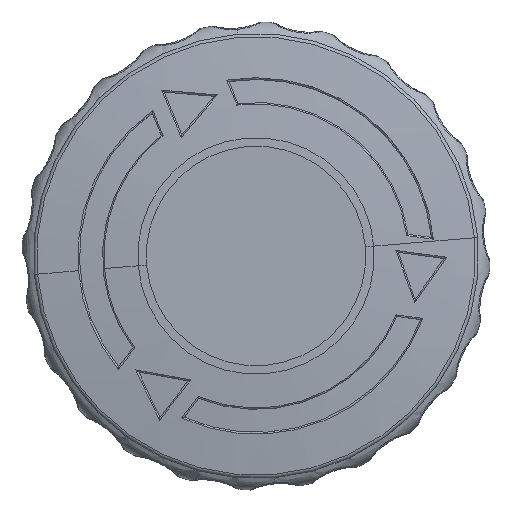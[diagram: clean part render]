
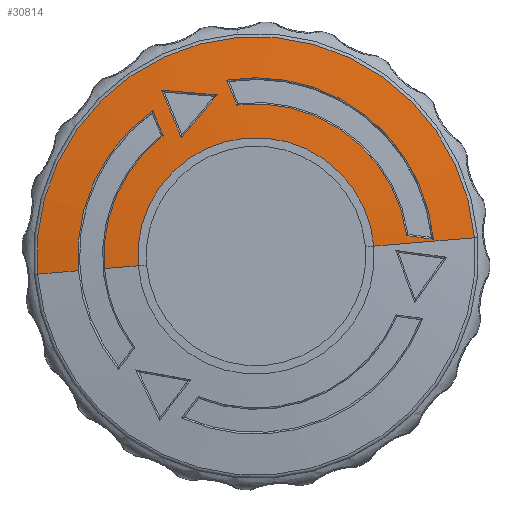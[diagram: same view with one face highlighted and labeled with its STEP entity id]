
A CAD part, top view. The second image highlights one B-rep face of the part: STEP entity #30814.
In plain terms, the highlighted spherical face has radius 210 mm.
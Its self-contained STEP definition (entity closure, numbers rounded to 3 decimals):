
#166 = DIRECTION ( 'NONE',  ( 0.997, 0., -0.083 ) ) ;
#699 = DIRECTION ( 'NONE',  ( 0.991, 0., 0.132 ) ) ;
#722 = AXIS2_PLACEMENT_3D ( 'NONE', #104735, #30688, #99538 ) ;
#1771 = CARTESIAN_POINT ( 'NONE',  ( 2.371, 50.323, 28.469 ) ) ;
#2172 = CARTESIAN_POINT ( 'NONE',  ( 0., 51.338, 0. ) ) ;
#2256 = CIRCLE ( 'NONE', #106653, 15.41 ) ;
#2991 = CARTESIAN_POINT ( 'NONE',  ( 0., -157.724, 0. ) ) ;
#3656 = CARTESIAN_POINT ( 'NONE',  ( 1.279, 51.71, 15.357 ) ) ;
#5211 = DIRECTION ( 'NONE',  ( -0.047, 0.998, -0.039 ) ) ;
#5470 = DIRECTION ( 'NONE',  ( -0.133, 0., -0.991 ) ) ;
#6587 = CARTESIAN_POINT ( 'NONE',  ( -22.905, 50.988, 3.822 ) ) ;
#6743 = VERTEX_POINT ( 'NONE', #88462 ) ;
#7196 = DIRECTION ( 'NONE',  ( 0., 1., 0. ) ) ;
#7393 = CIRCLE ( 'NONE', #45787, 209.935 ) ;
#8066 = CARTESIAN_POINT ( 'NONE',  ( -2.182, 50.988, -23.119 ) ) ;
#8913 = ORIENTED_EDGE ( 'NONE', *, *, #38964, .T. ) ;
#11091 = DIRECTION ( 'NONE',  ( 0.083, 0., 0.997 ) ) ;
#11705 = VERTEX_POINT ( 'NONE', #57041 ) ;
#11799 = VERTEX_POINT ( 'NONE', #6587 ) ;
#12746 = DIRECTION ( 'NONE',  ( 0.997, 0., -0.083 ) ) ;
#12752 = ORIENTED_EDGE ( 'NONE', *, *, #48710, .T. ) ;
#12975 = AXIS2_PLACEMENT_3D ( 'NONE', #24152, #85538, #16122 ) ;
#14512 = AXIS2_PLACEMENT_3D ( 'NONE', #71620, #62431, #27467 ) ;
#15249 = DIRECTION ( 'NONE',  ( -0.792, 0., 0.611 ) ) ;
#16122 = DIRECTION ( 'NONE',  ( 0.083, 0., 0.997 ) ) ;
#17018 = CIRCLE ( 'NONE', #86611, 209.277 ) ;
#17811 = AXIS2_PLACEMENT_3D ( 'NONE', #52582, #97321, #36486 ) ;
#18274 = CARTESIAN_POINT ( 'NONE',  ( -15.688, 51.338, 12.11 ) ) ;
#20249 = ORIENTED_EDGE ( 'NONE', *, *, #57925, .T. ) ;
#20265 = DIRECTION ( 'NONE',  ( 0., -1., 0. ) ) ;
#20990 = VERTEX_POINT ( 'NONE', #89584 ) ;
#21727 = CARTESIAN_POINT ( 'NONE',  ( 0., 50.988, 0. ) ) ;
#23630 = CARTESIAN_POINT ( 'NONE',  ( 1.987, -157.724, 4.814 ) ) ;
#24104 = DIRECTION ( 'NONE',  ( -0.079, 0.996, 0.033 ) ) ;
#24152 = CARTESIAN_POINT ( 'NONE',  ( 0., 50.988, 0. ) ) ;
#24819 = EDGE_CURVE ( 'NONE', #98777, #67661, #29723, .T. ) ;
#25426 = EDGE_LOOP ( 'NONE', ( #107903, #8913, #103073, #12752 ) ) ;
#25457 = ORIENTED_EDGE ( 'NONE', *, *, #71686, .T. ) ;
#25892 = VERTEX_POINT ( 'NONE', #107705 ) ;
#27467 = DIRECTION ( 'NONE',  ( -0.084, 0.996, 0.035 ) ) ;
#28106 = CARTESIAN_POINT ( 'NONE',  ( -1.279, 51.71, -15.357 ) ) ;
#29723 = CIRCLE ( 'NONE', #92062, 209.935 ) ;
#30688 = DIRECTION ( 'NONE',  ( 0.997, 0., -0.083 ) ) ;
#30814 = ADVANCED_FACE ( 'NONE', ( #112779, #104189, #51941 ), #34741, .T. ) ;
#31000 = CARTESIAN_POINT ( 'NONE',  ( -11.244, -157.724, 13.287 ) ) ;
#31299 = DIRECTION ( 'NONE',  ( 0.083, 0., 0.997 ) ) ;
#32288 = VERTEX_POINT ( 'NONE', #43223 ) ;
#32364 = CIRCLE ( 'NONE', #17811, 209. ) ;
#32417 = CARTESIAN_POINT ( 'NONE',  ( 0., 51.338, 0. ) ) ;
#32687 = DIRECTION ( 'NONE',  ( 0.382, 0., 0.924 ) ) ;
#32796 = ORIENTED_EDGE ( 'NONE', *, *, #97413, .F. ) ;
#33400 = ORIENTED_EDGE ( 'NONE', *, *, #58251, .T. ) ;
#33733 = EDGE_CURVE ( 'NONE', #32288, #20990, #17018, .T. ) ;
#34260 = CARTESIAN_POINT ( 'NONE',  ( -18.931, 50.988, 13.449 ) ) ;
#34741 = SPHERICAL_SURFACE ( 'NONE', #722, 210. ) ;
#35116 = CARTESIAN_POINT ( 'NONE',  ( 0., -157.724, 0. ) ) ;
#35300 = EDGE_CURVE ( 'NONE', #6743, #32288, #32364, .T. ) ;
#35529 = EDGE_LOOP ( 'NONE', ( #33400, #32796, #52252, #86471, #76740, #25457, #112341, #74548 ) ) ;
#36486 = DIRECTION ( 'NONE',  ( -0.006, 0.998, 0.067 ) ) ;
#37366 = AXIS2_PLACEMENT_3D ( 'NONE', #21727, #54954, #39453 ) ;
#38964 = EDGE_CURVE ( 'NONE', #25892, #107079, #109577, .T. ) ;
#39453 = DIRECTION ( 'NONE',  ( -0.986, 0., 0.165 ) ) ;
#42698 = VERTEX_POINT ( 'NONE', #47417 ) ;
#43223 = CARTESIAN_POINT ( 'NONE',  ( -20.982, 51.164, 5.047 ) ) ;
#43688 = DIRECTION ( 'NONE',  ( 0.014, 0.994, -0.107 ) ) ;
#45787 = AXIS2_PLACEMENT_3D ( 'NONE', #97047, #699, #43688 ) ;
#47417 = CARTESIAN_POINT ( 'NONE',  ( 1.645, 51.338, 19.751 ) ) ;
#48710 = EDGE_CURVE ( 'NONE', #11799, #69954, #85087, .T. ) ;
#49690 = CARTESIAN_POINT ( 'NONE',  ( -19.663, 51.338, 2.483 ) ) ;
#49882 = AXIS2_PLACEMENT_3D ( 'NONE', #79102, #32687, #24104 ) ;
#49969 = CIRCLE ( 'NONE', #86609, 210. ) ;
#51300 = CIRCLE ( 'NONE', #93503, 210. ) ;
#51941 = FACE_BOUND ( 'NONE', #25426, .T. ) ;
#52252 = ORIENTED_EDGE ( 'NONE', *, *, #88630, .F. ) ;
#52582 = CARTESIAN_POINT ( 'NONE',  ( -20.4, -157.724, -1.748 ) ) ;
#53174 = CIRCLE ( 'NONE', #88025, 19.819 ) ;
#54075 = CARTESIAN_POINT ( 'NONE',  ( 0., 51.71, 0. ) ) ;
#54735 = ORIENTED_EDGE ( 'NONE', *, *, #35300, .T. ) ;
#54954 = DIRECTION ( 'NONE',  ( 0., -1., 0. ) ) ;
#56341 = EDGE_CURVE ( 'NONE', #85022, #61396, #2256, .T. ) ;
#57041 = CARTESIAN_POINT ( 'NONE',  ( -2.371, 50.323, -28.469 ) ) ;
#57669 = CARTESIAN_POINT ( 'NONE',  ( 0., 50.323, 0. ) ) ;
#57925 = EDGE_CURVE ( 'NONE', #20990, #6743, #64573, .T. ) ;
#58251 = EDGE_CURVE ( 'NONE', #61396, #11705, #49969, .T. ) ;
#58804 = DIRECTION ( 'NONE',  ( 0., -1., 0. ) ) ;
#59143 = DIRECTION ( 'NONE',  ( -0.1, 0.994, 0.041 ) ) ;
#61396 = VERTEX_POINT ( 'NONE', #28106 ) ;
#62008 = AXIS2_PLACEMENT_3D ( 'NONE', #57669, #58804, #31299 ) ;
#62196 = AXIS2_PLACEMENT_3D ( 'NONE', #2991, #12746, #82718 ) ;
#62431 = DIRECTION ( 'NONE',  ( 0.382, 0., 0.924 ) ) ;
#64181 = CIRCLE ( 'NONE', #12975, 23.222 ) ;
#64573 = CIRCLE ( 'NONE', #49882, 209.977 ) ;
#66843 = DIRECTION ( 'NONE',  ( -0.997, 0., 0.083 ) ) ;
#67661 = VERTEX_POINT ( 'NONE', #18274 ) ;
#69434 = EDGE_CURVE ( 'NONE', #69954, #25892, #7393, .T. ) ;
#69894 = EDGE_CURVE ( 'NONE', #93320, #98777, #64181, .T. ) ;
#69954 = VERTEX_POINT ( 'NONE', #8066 ) ;
#70131 = DIRECTION ( 'NONE',  ( 0.009, 0.994, 0.11 ) ) ;
#71620 = CARTESIAN_POINT ( 'NONE',  ( -1.987, -157.724, -4.814 ) ) ;
#71686 = EDGE_CURVE ( 'NONE', #67661, #42698, #53174, .T. ) ;
#74548 = ORIENTED_EDGE ( 'NONE', *, *, #56341, .T. ) ;
#76581 = CARTESIAN_POINT ( 'NONE',  ( 0., -157.724, 0. ) ) ;
#76740 = ORIENTED_EDGE ( 'NONE', *, *, #24819, .T. ) ;
#79102 = CARTESIAN_POINT ( 'NONE',  ( 1.185, -157.724, 2.871 ) ) ;
#82070 = ORIENTED_EDGE ( 'NONE', *, *, #33733, .T. ) ;
#82718 = DIRECTION ( 'NONE',  ( 0.006, 0.997, 0.073 ) ) ;
#83866 = DIRECTION ( 'NONE',  ( -0.382, 0., -0.924 ) ) ;
#84054 = EDGE_LOOP ( 'NONE', ( #54735, #82070, #20249 ) ) ;
#85022 = VERTEX_POINT ( 'NONE', #3656 ) ;
#85087 = CIRCLE ( 'NONE', #37366, 23.222 ) ;
#85538 = DIRECTION ( 'NONE',  ( 0., -1., 0. ) ) ;
#86471 = ORIENTED_EDGE ( 'NONE', *, *, #69894, .T. ) ;
#86609 = AXIS2_PLACEMENT_3D ( 'NONE', #76581, #66843, #111568 ) ;
#86611 = AXIS2_PLACEMENT_3D ( 'NONE', #31000, #91269, #5211 ) ;
#87818 = EDGE_CURVE ( 'NONE', #85022, #42698, #104385, .T. ) ;
#88025 = AXIS2_PLACEMENT_3D ( 'NONE', #32417, #7196, #15249 ) ;
#88462 = CARTESIAN_POINT ( 'NONE',  ( -21.601, 50.801, 12.277 ) ) ;
#88630 = EDGE_CURVE ( 'NONE', #93320, #96852, #51300, .T. ) ;
#89565 = CIRCLE ( 'NONE', #62008, 28.568 ) ;
#89584 = CARTESIAN_POINT ( 'NONE',  ( -15.442, 51.481, 9.735 ) ) ;
#89947 = DIRECTION ( 'NONE',  ( 0., 1., 0. ) ) ;
#91269 = DIRECTION ( 'NONE',  ( 0.646, 0., -0.763 ) ) ;
#92062 = AXIS2_PLACEMENT_3D ( 'NONE', #23630, #83866, #59143 ) ;
#93320 = VERTEX_POINT ( 'NONE', #111165 ) ;
#93503 = AXIS2_PLACEMENT_3D ( 'NONE', #35116, #166, #70131 ) ;
#96852 = VERTEX_POINT ( 'NONE', #1771 ) ;
#96896 = CIRCLE ( 'NONE', #14512, 209.935 ) ;
#97047 = CARTESIAN_POINT ( 'NONE',  ( -5.162, -157.724, -0.686 ) ) ;
#97321 = DIRECTION ( 'NONE',  ( -0.996, 0., -0.085 ) ) ;
#97413 = EDGE_CURVE ( 'NONE', #96852, #11705, #89565, .T. ) ;
#98509 = EDGE_CURVE ( 'NONE', #107079, #11799, #96896, .T. ) ;
#98777 = VERTEX_POINT ( 'NONE', #34260 ) ;
#99538 = DIRECTION ( 'NONE',  ( -0.083, 0., -0.997 ) ) ;
#103073 = ORIENTED_EDGE ( 'NONE', *, *, #98509, .T. ) ;
#104189 = FACE_BOUND ( 'NONE', #84054, .T. ) ;
#104385 = CIRCLE ( 'NONE', #62196, 210. ) ;
#104735 = CARTESIAN_POINT ( 'NONE',  ( 0., -157.724, 0. ) ) ;
#106653 = AXIS2_PLACEMENT_3D ( 'NONE', #54075, #20265, #11091 ) ;
#107079 = VERTEX_POINT ( 'NONE', #49690 ) ;
#107689 = AXIS2_PLACEMENT_3D ( 'NONE', #2172, #89947, #5470 ) ;
#107705 = CARTESIAN_POINT ( 'NONE',  ( -2.644, 51.338, -19.642 ) ) ;
#107903 = ORIENTED_EDGE ( 'NONE', *, *, #69434, .T. ) ;
#109577 = CIRCLE ( 'NONE', #107689, 19.819 ) ;
#111165 = CARTESIAN_POINT ( 'NONE',  ( 1.927, 50.988, 23.142 ) ) ;
#111568 = DIRECTION ( 'NONE',  ( -0.006, 0.997, -0.073 ) ) ;
#112341 = ORIENTED_EDGE ( 'NONE', *, *, #87818, .F. ) ;
#112779 = FACE_OUTER_BOUND ( 'NONE', #35529, .T. ) ;
